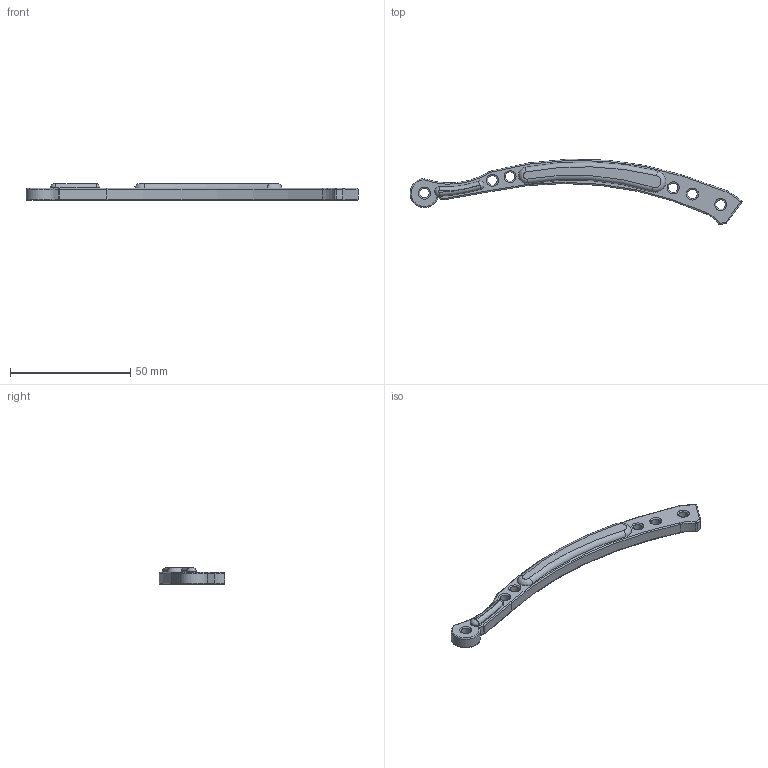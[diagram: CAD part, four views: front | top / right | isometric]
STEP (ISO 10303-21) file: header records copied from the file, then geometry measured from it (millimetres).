
FILE_DESCRIPTION(/* description */ (''),/* implementation_level */ '2;1');
FILE_NAME(/* name */ 'D:\STEP files\handle bottom.stp',/* time_stamp */ '2020-08-13T23:50:24+02:00',/* author */ ('Vít Budina'),/* organization */ (''),/* preprocessor_version */ 'ST-DEVELOPER v18',/* originating_system */ 'Autodesk Inventor 2020',/* authorisation */ '');
FILE_SCHEMA (('AUTOMOTIVE_DESIGN { 1 0 10303 214 3 1 1 }'));
Length unit declared in the file: millimetre
Products named in the file (1): handle bottom
Bounding box: 137.9 x 27.18 x 7 mm (x, y, z)
Volume: 7401.1 mm3; surface area: 4524.2 mm2
Topology: 1 solids, 1 shells, 90 faces, 188 edges, 102 vertices
Faces by surface type: cylinder 36, torus 23, sphere 18, plane 10, bspline 3
Full cylindrical faces by diameter (mm): 4 x6
Entity records: 2536 total; most frequent: DIRECTION 494, CARTESIAN_POINT 461, ORIENTED_EDGE 376, AXIS2_PLACEMENT_3D 220, EDGE_CURVE 188, CIRCLE 132, EDGE_LOOP 104, VERTEX_POINT 102
